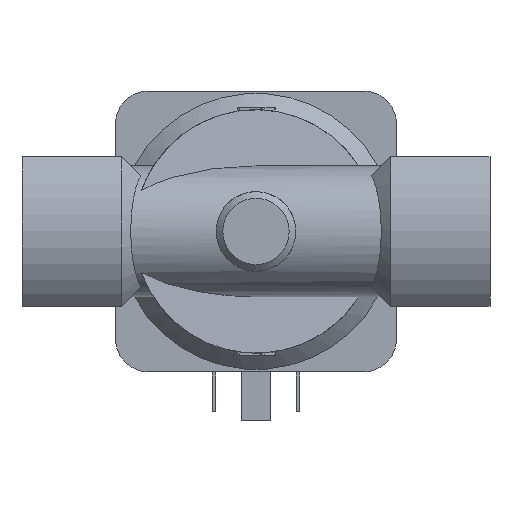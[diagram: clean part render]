
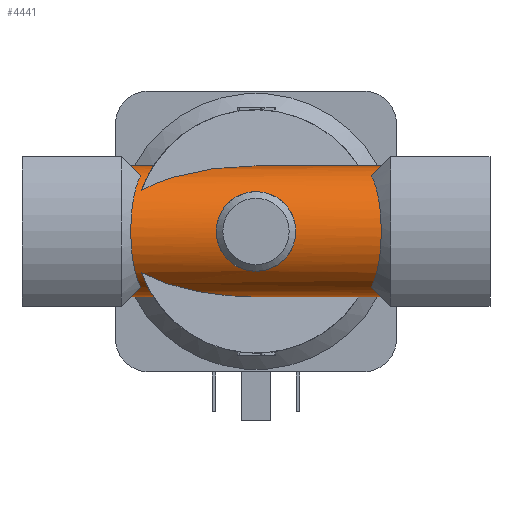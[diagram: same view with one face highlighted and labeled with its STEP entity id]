
A CAD part, front view. The second image highlights one B-rep face of the part: STEP entity #4441.
In plain terms, the highlighted cylindrical face has radius 14 mm (diameter 28 mm), a partial arc.
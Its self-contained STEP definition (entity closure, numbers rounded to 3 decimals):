
#383=LINE('',#7192,#803);
#384=LINE('',#7204,#804);
#385=LINE('',#7220,#805);
#386=LINE('',#7231,#806);
#803=VECTOR('',#5863,1000.);
#804=VECTOR('',#5866,1000.);
#805=VECTOR('',#5871,1000.);
#806=VECTOR('',#5874,1000.);
#1223=B_SPLINE_CURVE_WITH_KNOTS('',3,(#7180,#7181,#7182,#7183,#7184,#7185,
#7186,#7187,#7188),.UNSPECIFIED.,.F.,.F.,(4,1,1,1,1,1,4),(0.,
0.004,0.008,0.015,0.022,
0.026,0.029),.UNSPECIFIED.);
#1224=B_SPLINE_CURVE_WITH_KNOTS('',3,(#7194,#7195,#7196,#7197,#7198,#7199,
#7200),.UNSPECIFIED.,.F.,.F.,(4,1,1,1,4),(0.,0.003,
0.006,0.01,0.013),
 .UNSPECIFIED.);
#1225=B_SPLINE_CURVE_WITH_KNOTS('',3,(#7208,#7209,#7210,#7211,#7212,#7213,
#7214,#7215,#7216),.UNSPECIFIED.,.F.,.F.,(4,1,1,1,1,1,4),(0.,
0.004,0.008,0.015,0.022,
0.026,0.029),.UNSPECIFIED.);
#1226=B_SPLINE_CURVE_WITH_KNOTS('',3,(#7224,#7225,#7226,#7227,#7228,#7229),
 .UNSPECIFIED.,.F.,.F.,(4,1,1,4),(0.001,0.008,
0.011,0.014),.UNSPECIFIED.);
#1227=B_SPLINE_CURVE_WITH_KNOTS('',3,(#7232,#7233,#7234,#7235,#7236,#7237,
#7238,#7239,#7240,#7241,#7242,#7243,#7244,#7245,#7246,#7247,#7248,#7249,
#7250,#7251),.UNSPECIFIED.,.T.,.F.,(1,1,1,1,1,1,1,1,1,1,1,1,1,1,1,1,1,1,
1,1,1,1,1,1),(-0.007,-0.003,-0.002,
0.,0.003,0.007,0.01,0.014,
0.017,0.02,0.024,0.027,
0.031,0.034,0.037,0.041,
0.044,0.048,0.051,0.053,
0.054,0.058,0.061,0.065),
 .UNSPECIFIED.);
#1284=ORIENTED_EDGE('',*,*,#2604,.F.);
#1285=ORIENTED_EDGE('',*,*,#2605,.F.);
#1286=ORIENTED_EDGE('',*,*,#2606,.F.);
#1287=ORIENTED_EDGE('',*,*,#2607,.F.);
#1288=ORIENTED_EDGE('',*,*,#2608,.T.);
#1289=ORIENTED_EDGE('',*,*,#2609,.F.);
#1290=ORIENTED_EDGE('',*,*,#2610,.F.);
#1291=ORIENTED_EDGE('',*,*,#2611,.T.);
#1292=ORIENTED_EDGE('',*,*,#2612,.T.);
#1293=ORIENTED_EDGE('',*,*,#2613,.T.);
#1294=ORIENTED_EDGE('',*,*,#2614,.F.);
#1295=ORIENTED_EDGE('',*,*,#2615,.F.);
#1296=ORIENTED_EDGE('',*,*,#2616,.T.);
#1297=ORIENTED_EDGE('',*,*,#2617,.F.);
#1298=ORIENTED_EDGE('',*,*,#2618,.F.);
#2604=EDGE_CURVE('',#3264,#3265,#3710,.F.);
#2605=EDGE_CURVE('',#3266,#3264,#1223,.T.);
#2606=EDGE_CURVE('',#3267,#3266,#3711,.F.);
#2607=EDGE_CURVE('',#3268,#3267,#383,.T.);
#2608=EDGE_CURVE('',#3268,#3269,#1224,.T.);
#2609=EDGE_CURVE('',#3270,#3269,#3712,.F.);
#2610=EDGE_CURVE('',#3271,#3270,#384,.T.);
#2611=EDGE_CURVE('',#3271,#3272,#3713,.T.);
#2612=EDGE_CURVE('',#3272,#3273,#1225,.T.);
#2613=EDGE_CURVE('',#3273,#3274,#3714,.T.);
#2614=EDGE_CURVE('',#3275,#3274,#385,.T.);
#2615=EDGE_CURVE('',#3276,#3275,#3715,.F.);
#2616=EDGE_CURVE('',#3276,#3277,#1226,.T.);
#2617=EDGE_CURVE('',#3265,#3277,#386,.T.);
#2618=EDGE_CURVE('',#3278,#3278,#1227,.T.);
#3264=VERTEX_POINT('',#7178);
#3265=VERTEX_POINT('',#7179);
#3266=VERTEX_POINT('',#7189);
#3267=VERTEX_POINT('',#7191);
#3268=VERTEX_POINT('',#7193);
#3269=VERTEX_POINT('',#7201);
#3270=VERTEX_POINT('',#7203);
#3271=VERTEX_POINT('',#7205);
#3272=VERTEX_POINT('',#7207);
#3273=VERTEX_POINT('',#7217);
#3274=VERTEX_POINT('',#7219);
#3275=VERTEX_POINT('',#7221);
#3276=VERTEX_POINT('',#7223);
#3277=VERTEX_POINT('',#7230);
#3278=VERTEX_POINT('',#7252);
#3710=ELLIPSE('',#5407,19.799,14.);
#3711=ELLIPSE('',#5408,19.799,14.);
#3712=ELLIPSE('',#5409,34.42,14.);
#3713=ELLIPSE('',#5410,19.799,14.);
#3714=ELLIPSE('',#5411,19.799,14.);
#3715=ELLIPSE('',#5412,34.42,14.);
#3746=EDGE_LOOP('',(#1284,#1285,#1286,#1287,#1288,#1289,#1290,#1291,#1292,
#1293,#1294,#1295,#1296,#1297));
#3747=EDGE_LOOP('',(#1298));
#4062=FACE_BOUND('',#3746,.T.);
#4063=FACE_BOUND('',#3747,.T.);
#4378=CYLINDRICAL_SURFACE('',#5406,14.);
#4441=ADVANCED_FACE('',(#4062,#4063),#4378,.T.);
#5406=AXIS2_PLACEMENT_3D('',#7176,#5857,#5858);
#5407=AXIS2_PLACEMENT_3D('',#7177,#5859,#5860);
#5408=AXIS2_PLACEMENT_3D('',#7190,#5861,#5862);
#5409=AXIS2_PLACEMENT_3D('',#7202,#5864,#5865);
#5410=AXIS2_PLACEMENT_3D('',#7206,#5867,#5868);
#5411=AXIS2_PLACEMENT_3D('',#7218,#5869,#5870);
#5412=AXIS2_PLACEMENT_3D('',#7222,#5872,#5873);
#5857=DIRECTION('',(-1.,0.,0.));
#5858=DIRECTION('',(0.,0.,1.));
#5859=DIRECTION('',(0.707,0.,0.707));
#5860=DIRECTION('',(-0.707,0.,0.707));
#5861=DIRECTION('',(0.707,0.,-0.707));
#5862=DIRECTION('',(-0.707,0.,-0.707));
#5863=DIRECTION('',(-1.,0.,0.));
#5864=DIRECTION('',(0.407,-0.914,0.));
#5865=DIRECTION('',(-0.914,-0.407,0.));
#5866=DIRECTION('',(-1.,0.,0.));
#5867=DIRECTION('',(-0.707,0.,-0.707));
#5868=DIRECTION('',(-0.707,0.,0.707));
#5869=DIRECTION('',(-0.707,0.,0.707));
#5870=DIRECTION('',(-0.707,0.,-0.707));
#5871=DIRECTION('',(1.,0.,0.));
#5872=DIRECTION('',(0.407,-0.914,0.));
#5873=DIRECTION('',(-0.914,-0.407,0.));
#5874=DIRECTION('',(1.,0.,0.));
#7176=CARTESIAN_POINT('',(30.,0.,0.));
#7177=CARTESIAN_POINT('',(-12.75,0.,0.));
#7178=CARTESIAN_POINT('',(-24.652,-7.372,11.902));
#7179=CARTESIAN_POINT('',(-26.75,0.,14.));
#7180=CARTESIAN_POINT('',(-24.652,-7.372,-11.902));
#7181=CARTESIAN_POINT('',(-24.982,-8.359,-11.291));
#7182=CARTESIAN_POINT('',(-25.57,-10.165,-9.838));
#7183=CARTESIAN_POINT('',(-26.466,-13.041,-6.012));
#7184=CARTESIAN_POINT('',(-26.938,-14.636,-0.018));
#7185=CARTESIAN_POINT('',(-26.47,-13.052,5.986));
#7186=CARTESIAN_POINT('',(-25.577,-10.187,9.817));
#7187=CARTESIAN_POINT('',(-24.984,-8.364,11.288));
#7188=CARTESIAN_POINT('',(-24.652,-7.372,11.902));
#7189=CARTESIAN_POINT('',(-24.652,-7.372,-11.902));
#7190=CARTESIAN_POINT('',(-12.75,0.,0.));
#7191=CARTESIAN_POINT('',(-26.75,0.,-14.));
#7192=CARTESIAN_POINT('',(30.,0.,-14.));
#7193=CARTESIAN_POINT('',(-21.909,0.,-14.));
#7194=CARTESIAN_POINT('',(-21.909,0.,-14.));
#7195=CARTESIAN_POINT('',(-21.909,-1.077,-14.));
#7196=CARTESIAN_POINT('',(-22.068,-3.182,-13.756));
#7197=CARTESIAN_POINT('',(-22.708,-6.173,-12.696));
#7198=CARTESIAN_POINT('',(-23.575,-8.799,-11.032));
#7199=CARTESIAN_POINT('',(-24.18,-10.247,-9.595));
#7200=CARTESIAN_POINT('',(-24.468,-10.894,-8.793));
#7201=CARTESIAN_POINT('',(-24.468,-10.894,-8.793));
#7202=CARTESIAN_POINT('',(0.,0.,0.));
#7203=CARTESIAN_POINT('',(0.,0.,-14.));
#7204=CARTESIAN_POINT('',(30.,0.,-14.));
#7205=CARTESIAN_POINT('',(26.75,0.,-14.));
#7206=CARTESIAN_POINT('',(12.75,0.,0.));
#7207=CARTESIAN_POINT('',(24.652,-7.372,-11.902));
#7208=CARTESIAN_POINT('',(24.652,-7.372,-11.902));
#7209=CARTESIAN_POINT('',(24.982,-8.359,-11.291));
#7210=CARTESIAN_POINT('',(25.57,-10.165,-9.838));
#7211=CARTESIAN_POINT('',(26.466,-13.041,-6.012));
#7212=CARTESIAN_POINT('',(26.938,-14.636,-0.018));
#7213=CARTESIAN_POINT('',(26.47,-13.052,5.986));
#7214=CARTESIAN_POINT('',(25.577,-10.187,9.817));
#7215=CARTESIAN_POINT('',(24.984,-8.364,11.288));
#7216=CARTESIAN_POINT('',(24.652,-7.372,11.902));
#7217=CARTESIAN_POINT('',(24.652,-7.372,11.902));
#7218=CARTESIAN_POINT('',(12.75,0.,0.));
#7219=CARTESIAN_POINT('',(26.75,0.,14.));
#7220=CARTESIAN_POINT('',(-30.,0.,14.));
#7221=CARTESIAN_POINT('',(0.,0.,14.));
#7222=CARTESIAN_POINT('',(0.,0.,0.));
#7223=CARTESIAN_POINT('',(-24.468,-10.894,8.793));
#7224=CARTESIAN_POINT('',(-24.468,-10.894,8.793));
#7225=CARTESIAN_POINT('',(-23.895,-9.607,10.387));
#7226=CARTESIAN_POINT('',(-22.925,-7.177,12.336));
#7227=CARTESIAN_POINT('',(-22.069,-3.192,13.754));
#7228=CARTESIAN_POINT('',(-21.909,-1.079,14.));
#7229=CARTESIAN_POINT('',(-21.909,0.,14.));
#7230=CARTESIAN_POINT('',(-21.909,0.,14.));
#7231=CARTESIAN_POINT('',(-30.,0.,14.));
#7232=CARTESIAN_POINT('',(-1.727,-11.216,-8.382));
#7233=CARTESIAN_POINT('',(0.581,-11.031,-8.619));
#7234=CARTESIAN_POINT('',(3.406,-11.506,-8.024));
#7235=CARTESIAN_POINT('',(6.135,-12.653,-6.175));
#7236=CARTESIAN_POINT('',(8.012,-13.697,-3.443));
#7237=CARTESIAN_POINT('',(8.738,-14.148,-0.039));
#7238=CARTESIAN_POINT('',(8.036,-13.711,3.399));
#7239=CARTESIAN_POINT('',(6.155,-12.664,6.153));
#7240=CARTESIAN_POINT('',(3.451,-11.52,8.006));
#7241=CARTESIAN_POINT('',(0.035,-10.932,8.74));
#7242=CARTESIAN_POINT('',(-3.389,-11.499,8.035));
#7243=CARTESIAN_POINT('',(-6.124,-12.648,6.186));
#7244=CARTESIAN_POINT('',(-8.011,-13.696,3.45));
#7245=CARTESIAN_POINT('',(-8.739,-14.149,0.033));
#7246=CARTESIAN_POINT('',(-8.034,-13.71,-3.403));
#7247=CARTESIAN_POINT('',(-6.15,-12.659,-6.162));
#7248=CARTESIAN_POINT('',(-3.881,-11.708,-7.704));
#7249=CARTESIAN_POINT('',(-1.727,-11.216,-8.382));
#7250=CARTESIAN_POINT('',(0.581,-11.031,-8.619));
#7251=CARTESIAN_POINT('',(3.406,-11.506,-8.024));
#7252=CARTESIAN_POINT('',(0.,-11.124,-8.5));
